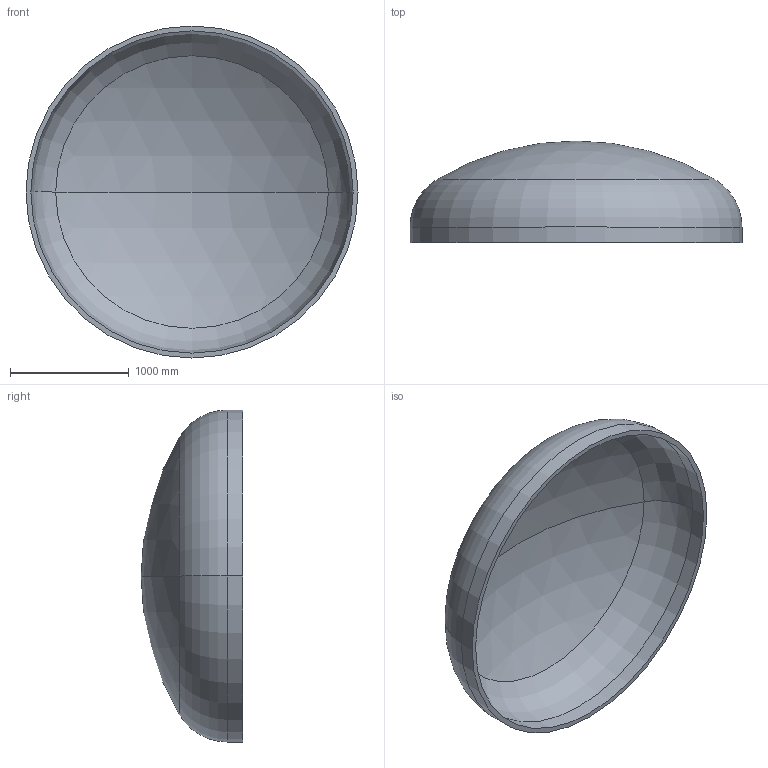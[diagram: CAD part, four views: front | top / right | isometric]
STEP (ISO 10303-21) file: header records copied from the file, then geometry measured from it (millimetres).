
FILE_DESCRIPTION (( 'STEP AP203' ), '1' );
FILE_NAME ('DIN 28013 Korbbogenform_-_Boden DIN 28013 - 2800 x 130 - I - s=41.step', '2016-07-01T16:58:35', ( '' ), ( '' ), 'SwSTEP 2.0', 'SolidWorks 2013', '' );
FILE_SCHEMA (( 'CONFIG_CONTROL_DESIGN' ));
Length unit declared in the file: millimetre
Products named in the file (1): DIN 28013 Korbbogenform_-_Boden DIN 28013 - 2800 x 130 - I - s=41
Bounding box: 2800 x 857.6 x 2800 mm (x, y, z)
Volume: 388964036.2 mm3; surface area: 19332743.4 mm2
Topology: 1 solids, 1 shells, 13 faces, 24 edges, 14 vertices
Faces by surface type: torus 4, cylinder 4, sphere 4, plane 1
Entity records: 407 total; most frequent: DIRECTION 72, CARTESIAN_POINT 52, ORIENTED_EDGE 48, AXIS2_PLACEMENT_3D 34, EDGE_CURVE 24, CIRCLE 20, VERTEX_POINT 14, EDGE_LOOP 14
